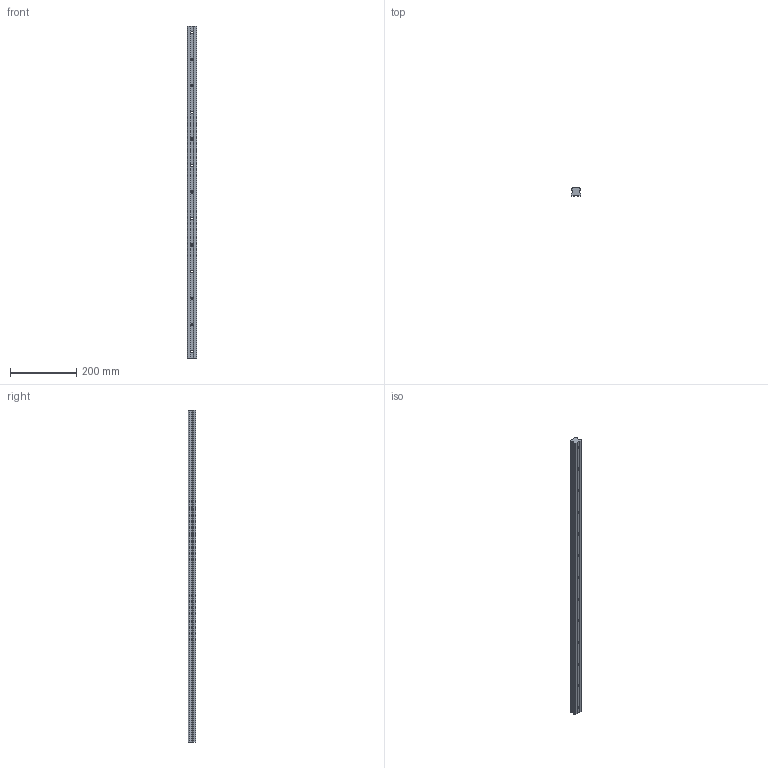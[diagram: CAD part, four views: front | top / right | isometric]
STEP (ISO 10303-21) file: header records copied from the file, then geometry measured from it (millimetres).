
FILE_DESCRIPTION (( 'STEP AP214' ), '1' );
FILE_NAME ('2.0012 Lineaarijohde EGR30U.STEP', '2024-04-22T08:14:38', ( '' ), ( '' ), 'SwSTEP 2.0', 'SolidWorks 2024', '' );
FILE_SCHEMA (( 'AUTOMOTIVE_DESIGN' ));
Length unit declared in the file: millimetre
Products named in the file (1): 2.0012 Lineaarijohde EGR30U
Bounding box: 28 x 23 x 1000 mm (x, y, z)
Volume: 557281.3 mm3; surface area: 111755.7 mm2
Topology: 1 solids, 1 shells, 105 faces, 270 edges, 180 vertices
Faces by surface type: cylinder 70, plane 35
Entity records: 3339 total; most frequent: DIRECTION 622, CARTESIAN_POINT 556, ORIENTED_EDGE 540, EDGE_CURVE 270, AXIS2_PLACEMENT_3D 246, VERTEX_POINT 180, EDGE_LOOP 144, CIRCLE 140
